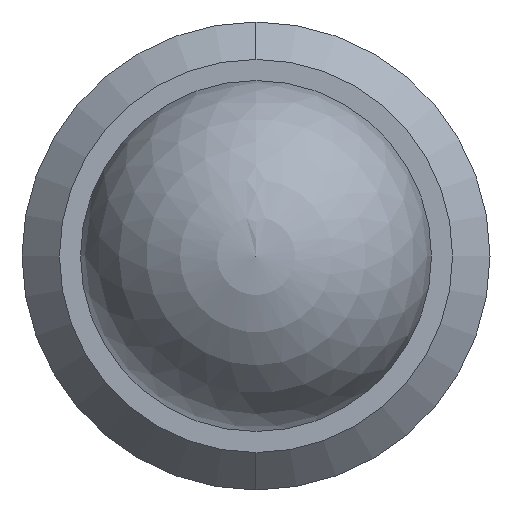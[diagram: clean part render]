
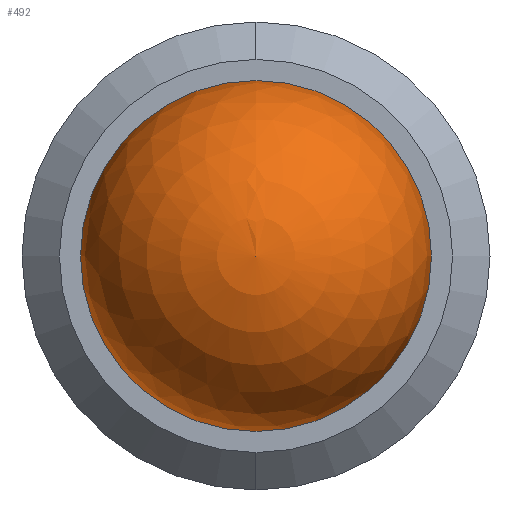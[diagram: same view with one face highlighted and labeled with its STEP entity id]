
A CAD part, left-side view. The second image highlights one B-rep face of the part: STEP entity #492.
In plain terms, the highlighted spherical face has radius 2.381 mm.
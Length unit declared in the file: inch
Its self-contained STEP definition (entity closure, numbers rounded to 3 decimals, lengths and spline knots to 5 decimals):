
#4 = SPHERICAL_SURFACE ( 'NONE', #369, 0.09375 ) ;
#49 = ORIENTED_EDGE ( 'NONE', *, *, #150, .T. ) ;
#73 = CARTESIAN_POINT ( 'NONE',  ( 0., 0., 0. ) ) ;
#120 = DIRECTION ( 'NONE',  ( 0., 0., -1. ) ) ;
#139 = ORIENTED_EDGE ( 'NONE', *, *, #516, .F. ) ;
#150 = EDGE_CURVE ( 'NONE', #195, #480, #426, .T. ) ;
#195 = VERTEX_POINT ( 'NONE', #628 ) ;
#211 = EDGE_LOOP ( 'NONE', ( #139, #49 ) ) ;
#233 = AXIS2_PLACEMENT_3D ( 'NONE', #581, #286, #625 ) ;
#246 = CIRCLE ( 'NONE', #401, 0.09375 ) ;
#252 = CARTESIAN_POINT ( 'NONE',  ( 0., -0.09375, 0. ) ) ;
#256 = DIRECTION ( 'NONE',  ( -1., 0., 0. ) ) ;
#286 = DIRECTION ( 'NONE',  ( -1., 0., 0. ) ) ;
#357 = DIRECTION ( 'NONE',  ( 0., 0., 1. ) ) ;
#369 = AXIS2_PLACEMENT_3D ( 'NONE', #403, #256, #357 ) ;
#388 = FACE_OUTER_BOUND ( 'NONE', #211, .T. ) ;
#401 = AXIS2_PLACEMENT_3D ( 'NONE', #73, #409, #120 ) ;
#403 = CARTESIAN_POINT ( 'NONE',  ( 0., 0., 0. ) ) ;
#409 = DIRECTION ( 'NONE',  ( 1., 0., 0. ) ) ;
#426 = CIRCLE ( 'NONE', #233, 0.09375 ) ;
#480 = VERTEX_POINT ( 'NONE', #252 ) ;
#492 = ADVANCED_FACE ( 'NONE', ( #388 ), #4, .T. ) ;
#516 = EDGE_CURVE ( 'NONE', #195, #480, #246, .T. ) ;
#581 = CARTESIAN_POINT ( 'NONE',  ( 0., 0., 0. ) ) ;
#625 = DIRECTION ( 'NONE',  ( 0., 0., 1. ) ) ;
#628 = CARTESIAN_POINT ( 'NONE',  ( 0., 0.09375, 0. ) ) ;
